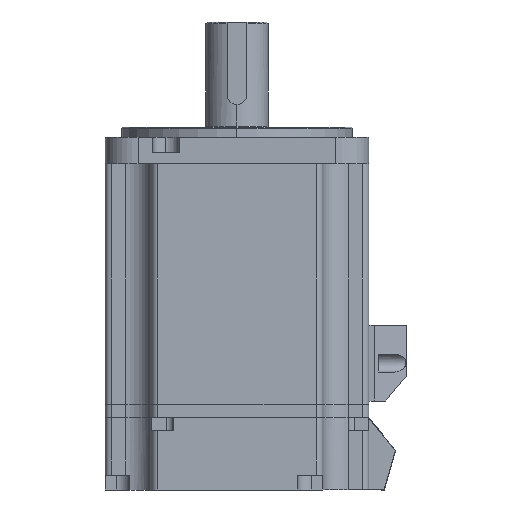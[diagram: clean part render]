
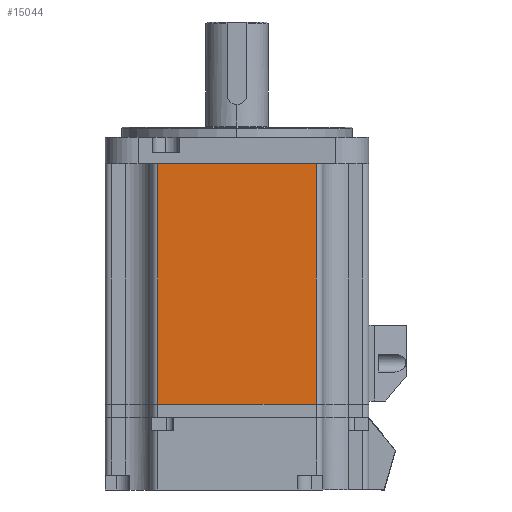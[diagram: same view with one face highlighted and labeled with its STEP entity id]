
A CAD part, left-side view. The second image highlights one B-rep face of the part: STEP entity #15044.
In plain terms, the highlighted planar face has unit normal (-1, 0, 0) as drawn and (1, 0, 0) by its records, which use the part's own axes.
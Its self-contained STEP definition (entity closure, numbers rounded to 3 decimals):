
#1581 = FACE_OUTER_BOUND ( 'NONE', #15886, .T. ) ;
#1744 = CARTESIAN_POINT ( 'NONE',  ( 40., 73., -24. ) ) ;
#2047 = VERTEX_POINT ( 'NONE', #12700 ) ;
#3107 = LINE ( 'NONE', #1744, #22181 ) ;
#3294 = VECTOR ( 'NONE', #9868, 1000. ) ;
#4555 = EDGE_CURVE ( 'NONE', #18322, #2047, #18811, .T. ) ;
#4652 = CARTESIAN_POINT ( 'NONE',  ( 40., 73., 24. ) ) ;
#5149 = ORIENTED_EDGE ( 'NONE', *, *, #17302, .T. ) ;
#5230 = EDGE_CURVE ( 'NONE', #18322, #14300, #8510, .T. ) ;
#5557 = CARTESIAN_POINT ( 'NONE',  ( 40., 0., 24. ) ) ;
#8285 = VECTOR ( 'NONE', #12454, 1000. ) ;
#8460 = VECTOR ( 'NONE', #13855, 1000. ) ;
#8510 = LINE ( 'NONE', #13679, #3294 ) ;
#9090 = ORIENTED_EDGE ( 'NONE', *, *, #15843, .F. ) ;
#9868 = DIRECTION ( 'NONE',  ( 0., 0., -1. ) ) ;
#11821 = ORIENTED_EDGE ( 'NONE', *, *, #4555, .T. ) ;
#11869 = PLANE ( 'NONE',  #16380 ) ;
#12170 = ORIENTED_EDGE ( 'NONE', *, *, #5230, .F. ) ;
#12454 = DIRECTION ( 'NONE',  ( 0., 0., -1. ) ) ;
#12700 = CARTESIAN_POINT ( 'NONE',  ( 40., 0., 24. ) ) ;
#13679 = CARTESIAN_POINT ( 'NONE',  ( 40., 73., 24. ) ) ;
#13771 = DIRECTION ( 'NONE',  ( 0., 0., 1. ) ) ;
#13855 = DIRECTION ( 'NONE',  ( 0., -1., 0. ) ) ;
#14300 = VERTEX_POINT ( 'NONE', #15554 ) ;
#14561 = CARTESIAN_POINT ( 'NONE',  ( 40., 0., -24. ) ) ;
#15044 = ADVANCED_FACE ( 'NONE', ( #1581 ), #11869, .F. ) ;
#15208 = DIRECTION ( 'NONE',  ( 0., -1., 0. ) ) ;
#15435 = CARTESIAN_POINT ( 'NONE',  ( 40., 73., 24. ) ) ;
#15554 = CARTESIAN_POINT ( 'NONE',  ( 40., 73., -24. ) ) ;
#15843 = EDGE_CURVE ( 'NONE', #14300, #16590, #3107, .T. ) ;
#15886 = EDGE_LOOP ( 'NONE', ( #5149, #9090, #12170, #11821 ) ) ;
#16380 = AXIS2_PLACEMENT_3D ( 'NONE', #20452, #17378, #13771 ) ;
#16590 = VERTEX_POINT ( 'NONE', #14561 ) ;
#17302 = EDGE_CURVE ( 'NONE', #2047, #16590, #17403, .T. ) ;
#17378 = DIRECTION ( 'NONE',  ( -1., 0., 0. ) ) ;
#17403 = LINE ( 'NONE', #5557, #8285 ) ;
#18322 = VERTEX_POINT ( 'NONE', #4652 ) ;
#18811 = LINE ( 'NONE', #15435, #8460 ) ;
#20452 = CARTESIAN_POINT ( 'NONE',  ( 40., 73., 24. ) ) ;
#22181 = VECTOR ( 'NONE', #15208, 1000. ) ;
